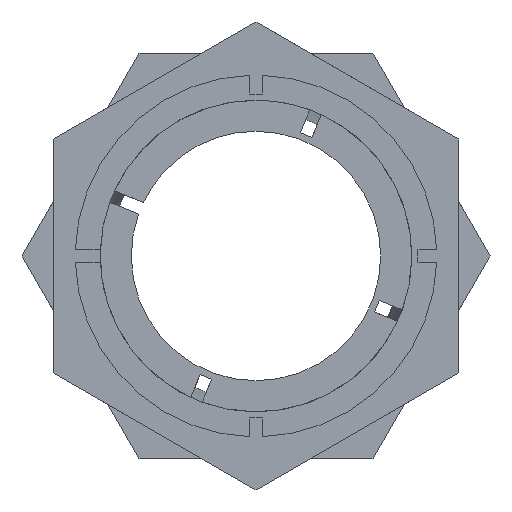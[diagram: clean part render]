
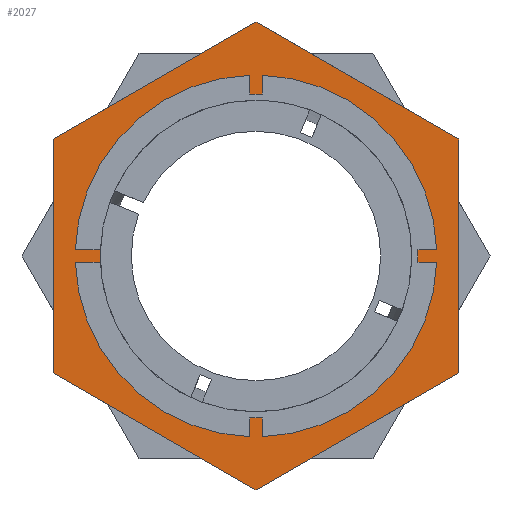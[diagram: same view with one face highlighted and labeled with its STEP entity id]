
A CAD part, left-side view. The second image highlights one B-rep face of the part: STEP entity #2027.
In plain terms, the highlighted planar face has unit normal (-1, 0, 0).
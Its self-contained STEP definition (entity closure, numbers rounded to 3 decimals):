
#354 = ORIENTED_EDGE ( 'NONE', *, *, #2207, .F. ) ;
#355 = ORIENTED_EDGE ( 'NONE', *, *, #2181, .F. ) ;
#356 = ORIENTED_EDGE ( 'NONE', *, *, #2208, .T. ) ;
#357 = ORIENTED_EDGE ( 'NONE', *, *, #2205, .T. ) ;
#358 = ORIENTED_EDGE ( 'NONE', *, *, #2186, .T. ) ;
#359 = ORIENTED_EDGE ( 'NONE', *, *, #2193, .T. ) ;
#360 = ORIENTED_EDGE ( 'NONE', *, *, #2190, .T. ) ;
#361 = ORIENTED_EDGE ( 'NONE', *, *, #2199, .T. ) ;
#551 = FACE_BOUND ( 'NONE', #2107, .T. ) ;
#557 = FACE_OUTER_BOUND ( 'NONE', #2103, .T. ) ;
#671 = CIRCLE ( 'NONE', #2414, 24.001 ) ;
#676 = LINE ( 'NONE', #1637, #677 ) ;
#677 = VECTOR ( 'NONE', #1638, 1000. ) ;
#678 = LINE ( 'NONE', #1647, #679 ) ;
#679 = VECTOR ( 'NONE', #1648, 1000. ) ;
#689 = LINE ( 'NONE', #1653, #690 ) ;
#690 = VECTOR ( 'NONE', #1654, 1000. ) ;
#700 = LINE ( 'NONE', #1665, #701 ) ;
#701 = VECTOR ( 'NONE', #1666, 1000. ) ;
#705 = VECTOR ( 'NONE', #1686, 1000. ) ;
#707 = LINE ( 'NONE', #1685, #705 ) ;
#712 = LINE ( 'NONE', #1678, #713 ) ;
#713 = VECTOR ( 'NONE', #1679, 1000. ) ;
#718 = CIRCLE ( 'NONE', #2420, 24.001 ) ;
#961 = DIRECTION ( 'NONE',  ( 0., 0., -1. ) ) ;
#962 = DIRECTION ( 'NONE',  ( 1., 0., 0. ) ) ;
#967 = CARTESIAN_POINT ( 'NONE',  ( 32.52, 50., 0. ) ) ;
#968 = PLANE ( 'NONE',  #2384 ) ;
#1203 = CARTESIAN_POINT ( 'NONE',  ( 32.52, 0., -24.001 ) ) ;
#1213 = CARTESIAN_POINT ( 'NONE',  ( 32.52, 0., 24.001 ) ) ;
#1250 = CARTESIAN_POINT ( 'NONE',  ( 32.52, 0., 37.528 ) ) ;
#1253 = CARTESIAN_POINT ( 'NONE',  ( 32.52, -32.5, 18.764 ) ) ;
#1256 = CARTESIAN_POINT ( 'NONE',  ( 32.52, -32.5, -18.764 ) ) ;
#1257 = CARTESIAN_POINT ( 'NONE',  ( 32.52, 0., -37.528 ) ) ;
#1258 = CARTESIAN_POINT ( 'NONE',  ( 32.52, 32.5, -18.764 ) ) ;
#1262 = CARTESIAN_POINT ( 'NONE',  ( 32.52, 32.5, 18.764 ) ) ;
#1383 = VERTEX_POINT ( 'NONE', #1262 ) ;
#1387 = VERTEX_POINT ( 'NONE', #1258 ) ;
#1388 = VERTEX_POINT ( 'NONE', #1257 ) ;
#1389 = VERTEX_POINT ( 'NONE', #1256 ) ;
#1392 = VERTEX_POINT ( 'NONE', #1253 ) ;
#1395 = VERTEX_POINT ( 'NONE', #1250 ) ;
#1432 = VERTEX_POINT ( 'NONE', #1213 ) ;
#1443 = VERTEX_POINT ( 'NONE', #1203 ) ;
#1624 = CARTESIAN_POINT ( 'NONE',  ( 32.52, 0., 0. ) ) ;
#1625 = DIRECTION ( 'NONE',  ( -1., 0., 0. ) ) ;
#1626 = DIRECTION ( 'NONE',  ( 0., 0., 1. ) ) ;
#1637 = CARTESIAN_POINT ( 'NONE',  ( 32.52, 0., -37.528 ) ) ;
#1638 = DIRECTION ( 'NONE',  ( 0., -0.866, -0.5 ) ) ;
#1647 = CARTESIAN_POINT ( 'NONE',  ( 32.52, -32.5, 18.764 ) ) ;
#1648 = DIRECTION ( 'NONE',  ( 0., 0., 1. ) ) ;
#1653 = CARTESIAN_POINT ( 'NONE',  ( 32.52, -32.5, -18.764 ) ) ;
#1654 = DIRECTION ( 'NONE',  ( 0., -0.866, 0.5 ) ) ;
#1665 = CARTESIAN_POINT ( 'NONE',  ( 32.52, 0., 37.528 ) ) ;
#1666 = DIRECTION ( 'NONE',  ( 0., 0.866, 0.5 ) ) ;
#1674 = CARTESIAN_POINT ( 'NONE',  ( 32.52, 0., 0. ) ) ;
#1678 = CARTESIAN_POINT ( 'NONE',  ( 32.52, 32.5, -18.764 ) ) ;
#1679 = DIRECTION ( 'NONE',  ( 0., 0., -1. ) ) ;
#1683 = DIRECTION ( 'NONE',  ( -1., 0., 0. ) ) ;
#1684 = DIRECTION ( 'NONE',  ( 0., 0., 1. ) ) ;
#1685 = CARTESIAN_POINT ( 'NONE',  ( 32.52, 32.5, 18.764 ) ) ;
#1686 = DIRECTION ( 'NONE',  ( 0., 0.866, -0.5 ) ) ;
#2027 = ADVANCED_FACE ( 'NONE', ( #551, #557 ), #968, .F. ) ;
#2103 = EDGE_LOOP ( 'NONE', ( #356, #357, #358, #359, #360, #361 ) ) ;
#2107 = EDGE_LOOP ( 'NONE', ( #354, #355 ) ) ;
#2181 = EDGE_CURVE ( 'NONE', #1443, #1432, #671, .T. ) ;
#2186 = EDGE_CURVE ( 'NONE', #1387, #1388, #676, .T. ) ;
#2190 = EDGE_CURVE ( 'NONE', #1389, #1392, #678, .T. ) ;
#2193 = EDGE_CURVE ( 'NONE', #1388, #1389, #689, .T. ) ;
#2199 = EDGE_CURVE ( 'NONE', #1392, #1395, #700, .T. ) ;
#2205 = EDGE_CURVE ( 'NONE', #1383, #1387, #712, .T. ) ;
#2207 = EDGE_CURVE ( 'NONE', #1432, #1443, #718, .T. ) ;
#2208 = EDGE_CURVE ( 'NONE', #1395, #1383, #707, .T. ) ;
#2384 = AXIS2_PLACEMENT_3D ( 'NONE', #967, #962, #961 ) ;
#2414 = AXIS2_PLACEMENT_3D ( 'NONE', #1624, #1625, #1626 ) ;
#2420 = AXIS2_PLACEMENT_3D ( 'NONE', #1674, #1683, #1684 ) ;
